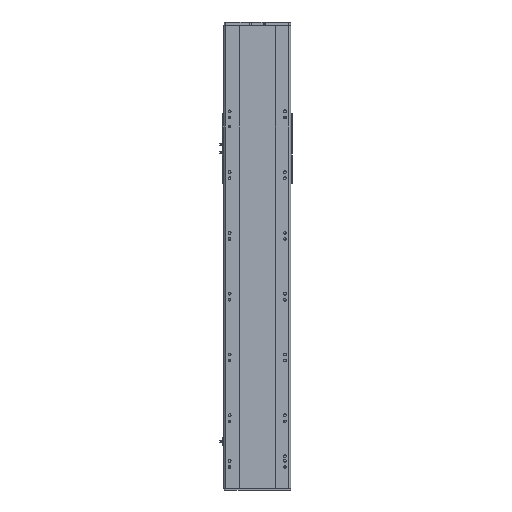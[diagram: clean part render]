
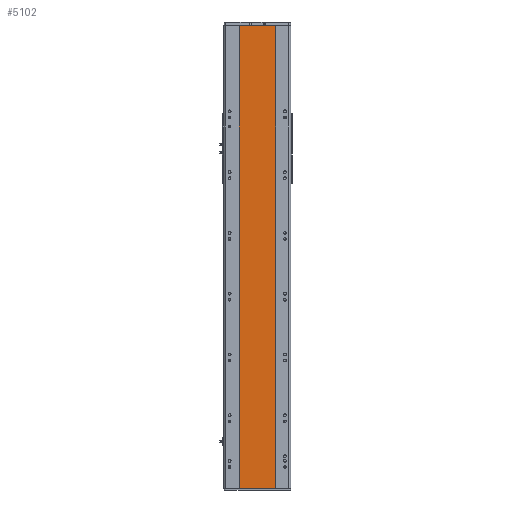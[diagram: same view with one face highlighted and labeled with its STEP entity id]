
A CAD part, front view. The second image highlights one B-rep face of the part: STEP entity #5102.
In plain terms, the highlighted planar face has unit normal (0, -1, 0).
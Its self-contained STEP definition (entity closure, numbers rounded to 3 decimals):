
#206 = AXIS2_PLACEMENT_3D ( 'NONE', #9083, #32823, #23881 ) ;
#2035 = FACE_OUTER_BOUND ( 'NONE', #21730, .T. ) ;
#3244 = CARTESIAN_POINT ( 'NONE',  ( -59., 1., 760.5 ) ) ;
#4766 = VECTOR ( 'NONE', #17067, 1000. ) ;
#5102 = ADVANCED_FACE ( 'NONE', ( #2035 ), #18408, .F. ) ;
#6727 = DIRECTION ( 'NONE',  ( 0., 0., -1. ) ) ;
#7100 = CARTESIAN_POINT ( 'NONE',  ( 59., 1., 760.5 ) ) ;
#7246 = VERTEX_POINT ( 'NONE', #14617 ) ;
#9063 = DIRECTION ( 'NONE',  ( 1., 0., 0. ) ) ;
#9083 = CARTESIAN_POINT ( 'NONE',  ( -59., 1., 760.5 ) ) ;
#9925 = EDGE_CURVE ( 'NONE', #27624, #21111, #20107, .T. ) ;
#10007 = DIRECTION ( 'NONE',  ( 1., 0., 0. ) ) ;
#11780 = LINE ( 'NONE', #3244, #27566 ) ;
#13539 = ORIENTED_EDGE ( 'NONE', *, *, #19442, .T. ) ;
#14617 = CARTESIAN_POINT ( 'NONE',  ( -59., 1., 760.5 ) ) ;
#15116 = VERTEX_POINT ( 'NONE', #28763 ) ;
#17067 = DIRECTION ( 'NONE',  ( 0., 0., -1. ) ) ;
#18408 = PLANE ( 'NONE',  #206 ) ;
#19442 = EDGE_CURVE ( 'NONE', #15116, #21111, #28204, .T. ) ;
#20107 = LINE ( 'NONE', #7100, #37743 ) ;
#20144 = ORIENTED_EDGE ( 'NONE', *, *, #29913, .T. ) ;
#21111 = VERTEX_POINT ( 'NONE', #38461 ) ;
#21730 = EDGE_LOOP ( 'NONE', ( #13539, #24307, #22196, #20144 ) ) ;
#22196 = ORIENTED_EDGE ( 'NONE', *, *, #29617, .F. ) ;
#23881 = DIRECTION ( 'NONE',  ( -1., 0., 0. ) ) ;
#24307 = ORIENTED_EDGE ( 'NONE', *, *, #9925, .F. ) ;
#24943 = CARTESIAN_POINT ( 'NONE',  ( -59., 1., -760.5 ) ) ;
#27529 = LINE ( 'NONE', #31702, #4766 ) ;
#27566 = VECTOR ( 'NONE', #9063, 1000. ) ;
#27624 = VERTEX_POINT ( 'NONE', #35730 ) ;
#28204 = LINE ( 'NONE', #24943, #33786 ) ;
#28763 = CARTESIAN_POINT ( 'NONE',  ( -59., 1., -760.5 ) ) ;
#29617 = EDGE_CURVE ( 'NONE', #7246, #27624, #11780, .T. ) ;
#29913 = EDGE_CURVE ( 'NONE', #7246, #15116, #27529, .T. ) ;
#31702 = CARTESIAN_POINT ( 'NONE',  ( -59., 1., 760.5 ) ) ;
#32823 = DIRECTION ( 'NONE',  ( 0., 1., 0. ) ) ;
#33786 = VECTOR ( 'NONE', #10007, 1000. ) ;
#35730 = CARTESIAN_POINT ( 'NONE',  ( 59., 1., 760.5 ) ) ;
#37743 = VECTOR ( 'NONE', #6727, 1000. ) ;
#38461 = CARTESIAN_POINT ( 'NONE',  ( 59., 1., -760.5 ) ) ;
